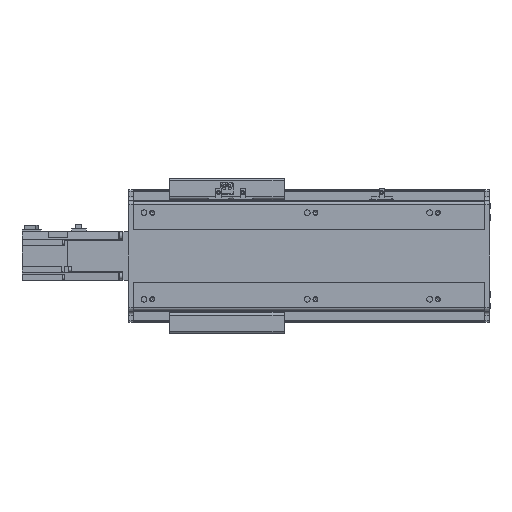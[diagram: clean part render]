
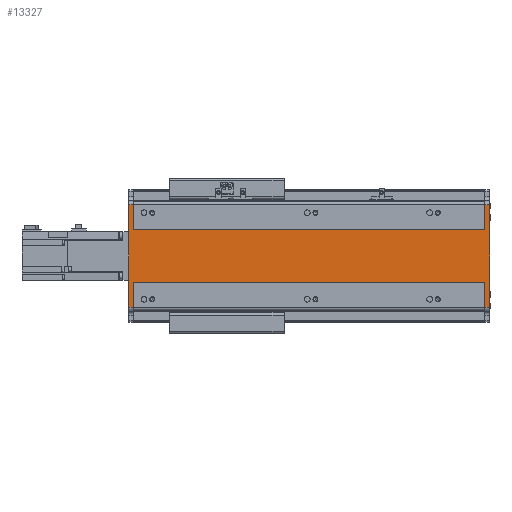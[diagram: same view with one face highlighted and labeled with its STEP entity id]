
A CAD part, front view. The second image highlights one B-rep face of the part: STEP entity #13327.
In plain terms, the highlighted planar face has unit normal (0, -1, 0).
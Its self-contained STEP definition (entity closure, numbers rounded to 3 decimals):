
#2855=ORIENTED_EDGE('',*,*,#5740,.T.);
#2856=ORIENTED_EDGE('',*,*,#5741,.F.);
#2857=ORIENTED_EDGE('',*,*,#5742,.F.);
#2858=ORIENTED_EDGE('',*,*,#5743,.F.);
#2859=ORIENTED_EDGE('',*,*,#5662,.F.);
#2860=ORIENTED_EDGE('',*,*,#5744,.F.);
#2861=ORIENTED_EDGE('',*,*,#5745,.F.);
#2862=ORIENTED_EDGE('',*,*,#5746,.T.);
#2863=ORIENTED_EDGE('',*,*,#5660,.T.);
#2864=ORIENTED_EDGE('',*,*,#5747,.T.);
#2865=ORIENTED_EDGE('',*,*,#5748,.F.);
#2866=ORIENTED_EDGE('',*,*,#5738,.T.);
#5660=EDGE_CURVE('',#7243,#7248,#8526,.T.);
#5662=EDGE_CURVE('',#7249,#7251,#8527,.T.);
#5738=EDGE_CURVE('',#7306,#7305,#8583,.T.);
#5740=EDGE_CURVE('',#7305,#7307,#8584,.T.);
#5741=EDGE_CURVE('',#7308,#7307,#8585,.T.);
#5742=EDGE_CURVE('',#7309,#7308,#8586,.T.);
#5743=EDGE_CURVE('',#7251,#7309,#8587,.T.);
#5744=EDGE_CURVE('',#7310,#7249,#8588,.T.);
#5745=EDGE_CURVE('',#7311,#7310,#8589,.T.);
#5746=EDGE_CURVE('',#7311,#7243,#8590,.T.);
#5747=EDGE_CURVE('',#7248,#7312,#8591,.T.);
#5748=EDGE_CURVE('',#7306,#7312,#8592,.T.);
#7243=VERTEX_POINT('',#21375);
#7248=VERTEX_POINT('',#21385);
#7249=VERTEX_POINT('',#21389);
#7251=VERTEX_POINT('',#21392);
#7305=VERTEX_POINT('',#21537);
#7306=VERTEX_POINT('',#21539);
#7307=VERTEX_POINT('',#21543);
#7308=VERTEX_POINT('',#21545);
#7309=VERTEX_POINT('',#21547);
#7310=VERTEX_POINT('',#21550);
#7311=VERTEX_POINT('',#21552);
#7312=VERTEX_POINT('',#21555);
#8526=LINE('',#21386,#9863);
#8527=LINE('',#21391,#9864);
#8583=LINE('',#21538,#9920);
#8584=LINE('',#21542,#9921);
#8585=LINE('',#21544,#9922);
#8586=LINE('',#21546,#9923);
#8587=LINE('',#21548,#9924);
#8588=LINE('',#21549,#9925);
#8589=LINE('',#21551,#9926);
#8590=LINE('',#21553,#9927);
#8591=LINE('',#21554,#9928);
#8592=LINE('',#21556,#9929);
#9863=VECTOR('',#17152,1000.);
#9864=VECTOR('',#17157,1000.);
#9920=VECTOR('',#17285,1000.);
#9921=VECTOR('',#17290,1000.);
#9922=VECTOR('',#17291,1000.);
#9923=VECTOR('',#17292,1000.);
#9924=VECTOR('',#17293,1000.);
#9925=VECTOR('',#17294,1000.);
#9926=VECTOR('',#17295,1000.);
#9927=VECTOR('',#17296,1000.);
#9928=VECTOR('',#17297,1000.);
#9929=VECTOR('',#17298,1000.);
#10900=EDGE_LOOP('',(#2855,#2856,#2857,#2858,#2859,#2860,#2861,#2862,#2863,
#2864,#2865,#2866));
#11901=FACE_BOUND('',#10900,.T.);
#12696=PLANE('',#14460);
#13327=ADVANCED_FACE('',(#11901),#12696,.F.);
#14460=AXIS2_PLACEMENT_3D('',#21541,#17288,#17289);
#17152=DIRECTION('',(0.,0.,-1.));
#17157=DIRECTION('',(0.,0.,1.));
#17285=DIRECTION('',(-1.,0.,0.));
#17288=DIRECTION('',(0.,1.,0.));
#17289=DIRECTION('',(0.,0.,1.));
#17290=DIRECTION('',(0.,0.,-1.));
#17291=DIRECTION('',(-1.,0.,0.));
#17292=DIRECTION('',(0.,0.,-1.));
#17293=DIRECTION('',(-1.,0.,0.));
#17294=DIRECTION('',(-1.,0.,0.));
#17295=DIRECTION('',(0.,0.,-1.));
#17296=DIRECTION('',(-1.,0.,0.));
#17297=DIRECTION('',(-1.,0.,0.));
#17298=DIRECTION('',(0.,0.,-1.));
#21375=CARTESIAN_POINT('',(436.5,1.,63.128));
#21385=CARTESIAN_POINT('',(436.5,1.,32.));
#21386=CARTESIAN_POINT('',(436.5,1.,63.128));
#21389=CARTESIAN_POINT('',(436.5,1.,-63.128));
#21391=CARTESIAN_POINT('',(436.5,1.,66.5));
#21392=CARTESIAN_POINT('',(436.5,1.,-32.));
#21537=CARTESIAN_POINT('',(0.,1.,63.128));
#21538=CARTESIAN_POINT('',(6.,1.,63.128));
#21539=CARTESIAN_POINT('',(6.,1.,63.128));
#21541=CARTESIAN_POINT('',(6.,1.,63.128));
#21542=CARTESIAN_POINT('',(0.,1.,63.128));
#21543=CARTESIAN_POINT('',(0.,1.,-63.128));
#21544=CARTESIAN_POINT('',(6.,1.,-63.128));
#21545=CARTESIAN_POINT('',(6.,1.,-63.128));
#21546=CARTESIAN_POINT('',(6.,1.,63.128));
#21547=CARTESIAN_POINT('',(6.,1.,-32.));
#21548=CARTESIAN_POINT('',(436.5,1.,-32.));
#21549=CARTESIAN_POINT('',(442.5,1.,-63.128));
#21550=CARTESIAN_POINT('',(442.5,1.,-63.128));
#21551=CARTESIAN_POINT('',(442.5,1.,63.128));
#21552=CARTESIAN_POINT('',(442.5,1.,63.128));
#21553=CARTESIAN_POINT('',(442.5,1.,63.128));
#21554=CARTESIAN_POINT('',(436.5,1.,32.));
#21555=CARTESIAN_POINT('',(6.,1.,32.));
#21556=CARTESIAN_POINT('',(6.,1.,63.128));
